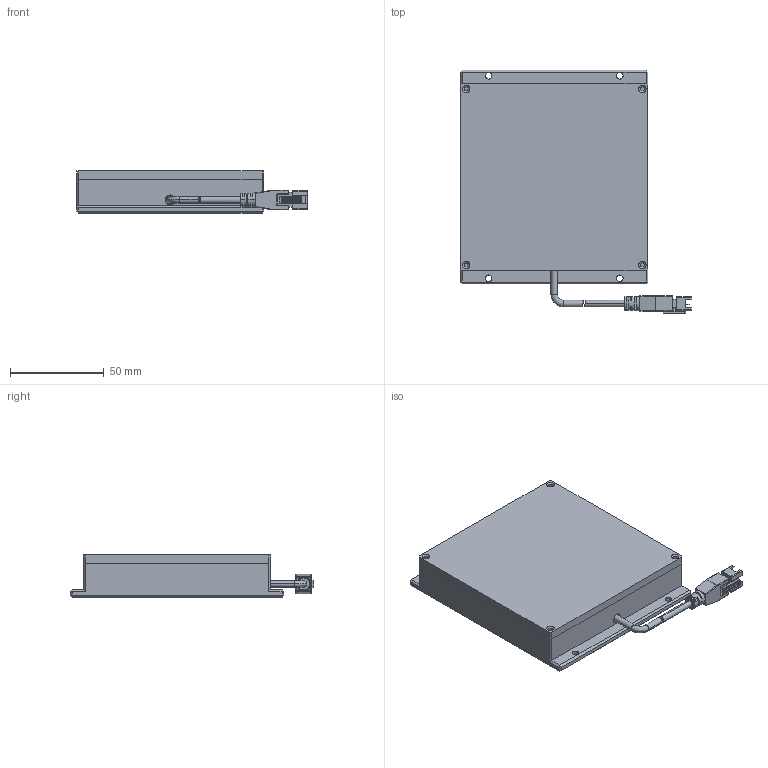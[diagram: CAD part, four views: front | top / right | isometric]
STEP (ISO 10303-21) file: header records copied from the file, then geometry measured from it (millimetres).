
FILE_DESCRIPTION (( 'STEP AP203' ), '1' );
FILE_NAME ('CRT-PFLD9090-¼òÒ×3DÍ¼.STEP', '2021-11-27T01:30:53', ( 'Admin' ), ( '' ), 'SwSTEP 2.0', 'SolidWorks 2018', '' );
FILE_SCHEMA (( 'CONFIG_CONTROL_DESIGN' ));
Length unit declared in the file: millimetre
Products named in the file (1): CRT-PFLD9090-潠眢3D芞
Bounding box: 123.23 x 129.95 x 22.5 mm (x, y, z)
Surface area: 34032.5 mm2 (no closed solid volume)
Topology: 0 solids, 4 shells, 263 faces, 721 edges, 449 vertices
Faces by surface type: plane 153, cylinder 75, bspline 19, cone 12, torus 4
Entity records: 8742 total; most frequent: CARTESIAN_POINT 2159, DIRECTION 1339, ORIENTED_EDGE 1314, EDGE_CURVE 713, LINE 473, VECTOR 473, VERTEX_POINT 449, AXIS2_PLACEMENT_3D 433
